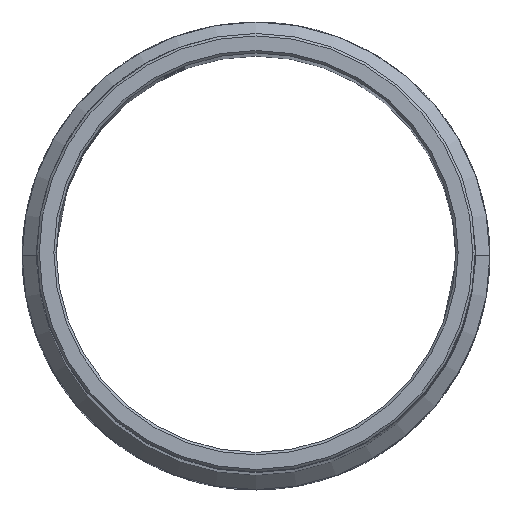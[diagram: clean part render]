
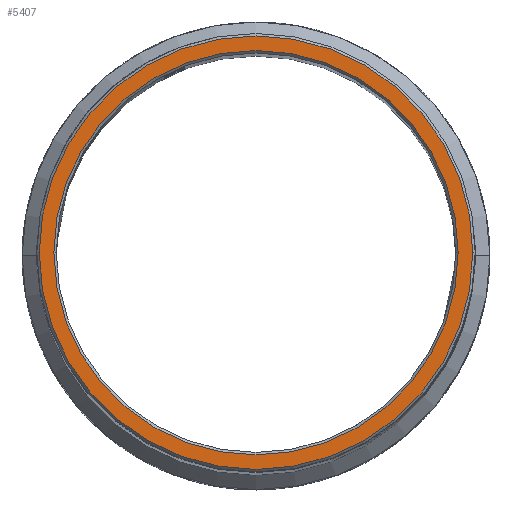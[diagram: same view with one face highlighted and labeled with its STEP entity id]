
A CAD part, top view. The second image highlights one B-rep face of the part: STEP entity #5407.
In plain terms, the highlighted planar face has unit normal (0, 0, 1).
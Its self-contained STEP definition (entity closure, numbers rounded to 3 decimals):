
#1022=CARTESIAN_POINT('',(0.,0.,398.5));
#1023=DIRECTION('',(0.,0.,-1.));
#1024=DIRECTION('',(1.,0.,0.));
#1025=AXIS2_PLACEMENT_3D('',#1022,#1023,#1024);
#1027=CARTESIAN_POINT('',(0.,0.,398.5));
#1028=DIRECTION('',(0.,0.,-1.));
#1029=DIRECTION('',(-1.,0.,0.));
#1030=AXIS2_PLACEMENT_3D('',#1027,#1028,#1029);
#1032=CARTESIAN_POINT('',(0.,0.,398.5));
#1033=DIRECTION('',(0.,0.,-1.));
#1034=DIRECTION('',(-1.,0.,0.));
#1035=AXIS2_PLACEMENT_3D('',#1032,#1033,#1034);
#1037=CARTESIAN_POINT('',(0.,0.,398.5));
#1038=DIRECTION('',(0.,0.,-1.));
#1039=DIRECTION('',(1.,0.,0.));
#1040=AXIS2_PLACEMENT_3D('',#1037,#1038,#1039);
#4536=CARTESIAN_POINT('',(44.5,0.,398.5));
#4537=CARTESIAN_POINT('',(-44.5,0.,398.5));
#4538=VERTEX_POINT('',#4536);
#4539=VERTEX_POINT('',#4537);
#4658=CARTESIAN_POINT('',(-41.5,0.,398.5));
#4659=CARTESIAN_POINT('',(41.5,0.,398.5));
#4660=VERTEX_POINT('',#4658);
#4661=VERTEX_POINT('',#4659);
#5391=CARTESIAN_POINT('',(0.,0.,398.5));
#5392=DIRECTION('',(0.,0.,1.));
#5393=DIRECTION('',(1.,0.,0.));
#5394=AXIS2_PLACEMENT_3D('',#5391,#5392,#5393);
#5395=PLANE('',#5394);
#5397=ORIENTED_EDGE('',*,*,#5396,.T.);
#5399=ORIENTED_EDGE('',*,*,#5398,.T.);
#5400=EDGE_LOOP('',(#5397,#5399));
#5401=FACE_OUTER_BOUND('',#5400,.F.);
#5402=ORIENTED_EDGE('',*,*,#5381,.F.);
#5404=ORIENTED_EDGE('',*,*,#5403,.F.);
#5405=EDGE_LOOP('',(#5402,#5404));
#5406=FACE_BOUND('',#5405,.F.);
#5407=ADVANCED_FACE('',(#5401,#5406),#5395,.T.);
#1026=CIRCLE('',#1025,44.5);
#1031=CIRCLE('',#1030,44.5);
#1036=CIRCLE('',#1035,41.5);
#1041=CIRCLE('',#1040,41.5);
#5381=EDGE_CURVE('',#4660,#4661,#1036,.T.);
#5396=EDGE_CURVE('',#4538,#4539,#1026,.T.);
#5398=EDGE_CURVE('',#4539,#4538,#1031,.T.);
#5403=EDGE_CURVE('',#4661,#4660,#1041,.T.);
